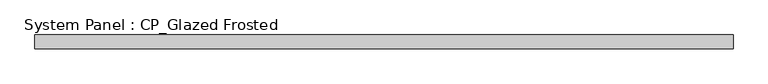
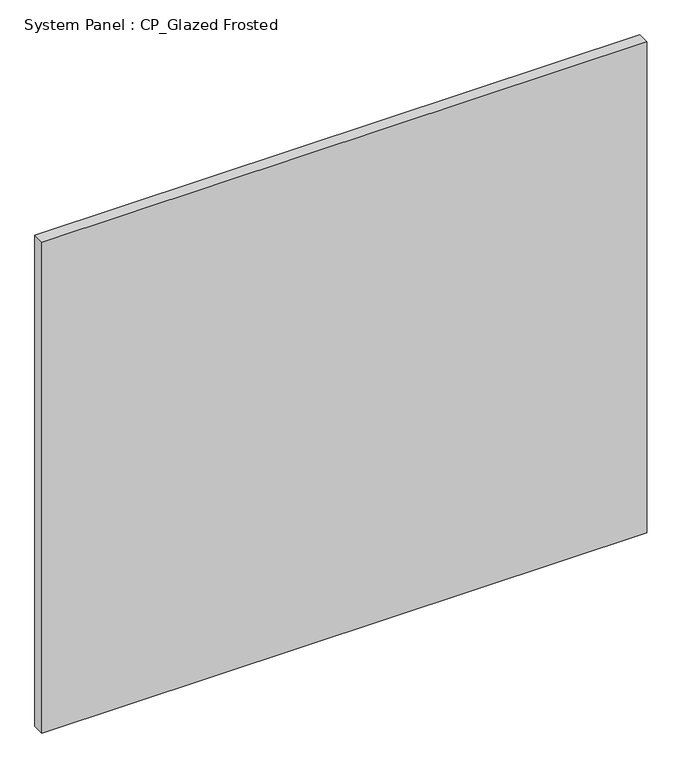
"""IFC4 building model written with IfcOpenShell, lengths in millimetres: plate geometry, System Panel : CP_Glazed Frosted."""

from ifc_helpers import new_model, si_unit, origin, origin_with_axes, place, context, project, spatial, polyline, outline, extrude, source, transform, mapped, element, save


def system_panel_cp_glazed_frosted_a312d78d(model_context):
    return source(origin(), model_context, "Body", "SweptSolid", [
        extrude(outline(polyline([(643.73125, 19.05), (-643.73125, 19.05), (-643.73125, 44.45), (643.73125, 44.45), (643.73125, 19.05)])), origin_with_axes(), (0.0, 0.0, 1.0), 1104.9),
    ])


if __name__ == "__main__":
    model = new_model("IFC4")
    model_context = context("Model", 3, world=origin())
    ifc_project = project(units=[si_unit("LENGTHUNIT", "METRE", prefix="MILLI")], contexts=[model_context])
    site = spatial("IfcSite", under=ifc_project)
    building = spatial("IfcBuilding", under=site)
    placement = place(None, origin())
    system_panel_cp_glazed_frosted_shape = system_panel_cp_glazed_frosted_a312d78d(model_context)
    element("IfcPlate", 1, ObjectType="System Panel : CP_Glazed Frosted", at=placement, inside=building, context=model_context, shape_type="MappedRepresentation", body=[
        mapped(system_panel_cp_glazed_frosted_shape, transform((0.0, 0.0, 0.0), x_axis=(1.0, 0.0, 0.0), y_axis=(0.0, 1.0, 0.0), z_axis=(0.0, 0.0, 1.0))),
    ])
    save(model, "model.ifc")
